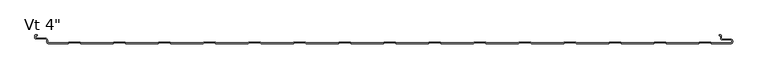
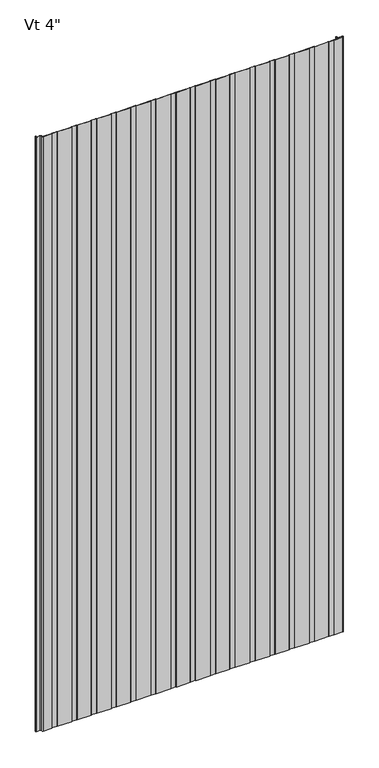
"""IFC4 building model written with IfcOpenShell, lengths in millimetres: plate geometry."""

from ifc_helpers import new_model, si_unit, frame, origin, place, context, project, spatial, polyline, circle_curve, source, transform, mapped, element, save
from ifc_brep_helpers import plane_surface, cylinder_surface, revolved_surface, advanced_brep


def plate_782f856b(model_context):
    return source(origin(), model_context, "Body", "AdvancedBrep", [
        advanced_brep(
        [(390.6883592, -101.6, 2400.0), (445.2678137, -101.6, 2400.0), (446.3403385, -100.4088405, 2400.0), (465.2384546, -100.4088405, 2400.0), (466.3109794, -101.6, 2400.0), (520.890434, -101.6, 2400.0), (521.9629588, -100.4088405, 2400.0), (540.8610749, -100.4088405, 2400.0), (541.9335958, -101.5999956, 2400.0), (574.5475652, -101.5999956, 2400.0), (577.5248337, -98.6227271, 2400.0), (577.5248337, -97.5806285, 2400.0), (574.5475652, -94.60336, 2400.0), (560.3591801, -94.60336, 2400.0), (558.7713036, -93.0154834, 2400.0), (558.7713036, -88.6950653, 2400.0), (557.1304042, -87.1065979, 2400.0), (554.7857432, -87.1065979, 2400.0), (554.7857432, -88.1060718, 2400.0), (557.1628365, -88.1060718, 2400.0), (557.7713037, -88.6950653, 2400.0), (557.7713037, -93.0154834, 2400.0), (560.3591801, -95.60336, 2400.0), (574.5475652, -95.60336, 2400.0), (576.5248337, -97.5806285, 2400.0), (576.5248337, -98.6227271, 2400.0), (574.5475652, -100.5999956, 2400.0), (542.3760351, -100.5999956, 2400.0), (541.3035142, -99.4088405, 2400.0), (521.5205195, -99.4088405, 2400.0), (520.4479947, -100.6, 2400.0), (466.7534187, -100.6, 2400.0), (465.6808939, -99.4088405, 2400.0), (445.8978992, -99.4088405, 2400.0), (444.8253744, -100.6, 2400.0), (391.1307985, -100.6, 2400.0), (390.0582736, -99.4088405, 2400.0), (370.275279, -99.4088405, 2400.0), (369.2027541, -100.6, 2400.0), (315.5081782, -100.6, 2400.0), (314.4356534, -99.4088405, 2400.0), (294.6526587, -99.4088405, 2400.0), (293.5801339, -100.6, 2400.0), (239.885558, -100.6, 2400.0), (238.8130331, -99.4088405, 2400.0), (219.0300384, -99.4088405, 2400.0), (217.9575136, -100.6, 2400.0), (164.2629377, -100.6, 2400.0), (163.1904129, -99.4088405, 2400.0), (143.4074182, -99.4088405, 2400.0), (142.3348933, -100.6, 2400.0), (88.6403174, -100.6, 2400.0), (87.5677926, -99.4088405, 2400.0), (67.7847979, -99.4088405, 2400.0), (66.7122731, -100.6, 2400.0), (13.0176972, -100.6, 2400.0), (11.9451723, -99.4088405, 2400.0), (-7.8378224, -99.4088405, 2400.0), (-8.9103472, -100.6, 2400.0), (-62.6049231, -100.6, 2400.0), (-63.6774479, -99.4088405, 2400.0), (-83.4604426, -99.4088405, 2400.0), (-84.5329675, -100.6, 2400.0), (-138.2275434, -100.6, 2400.0), (-139.3000682, -99.4088405, 2400.0), (-159.0830629, -99.4088405, 2400.0), (-160.1555877, -100.6, 2400.0), (-213.8501636, -100.6, 2400.0), (-214.9226885, -99.4088405, 2400.0), (-234.7056831, -99.4088405, 2400.0), (-235.778208, -100.6, 2400.0), (-289.4727839, -100.6, 2400.0), (-290.5453087, -99.4088405, 2400.0), (-310.3283034, -99.4088405, 2400.0), (-311.4008282, -100.6, 2400.0), (-365.0954042, -100.6, 2400.0), (-366.167929, -99.4088405, 2400.0), (-385.9509237, -99.4088405, 2400.0), (-387.0234485, -100.6, 2400.0), (-440.7180244, -100.6, 2400.0), (-441.7905493, -99.4088405, 2400.0), (-461.5735439, -99.4088405, 2400.0), (-462.6460688, -100.6, 2400.0), (-516.3406447, -100.6, 2400.0), (-517.4131695, -99.4088405, 2400.0), (-537.1961642, -99.4088405, 2400.0), (-538.268689, -100.6, 2400.0), (-570.43528, -100.6, 2400.0), (-572.4125474, -98.6227096, 2400.0), (-572.4125474, -96.3308258, 2400.0), (-576.3898159, -92.3535573, 2400.0), (-591.9862419, -92.3535573, 2400.0), (-592.5741185, -91.7656807, 2400.0), (-592.5741185, -88.694132, 2400.0), (-591.9862419, -88.1062555, 2400.0), (-589.6312064, -88.1062555, 2400.0), (-589.6312064, -87.1062555, 2400.0), (-591.9862419, -87.1062555, 2400.0), (-593.5741185, -88.694132, 2400.0), (-593.5741185, -91.7656807, 2400.0), (-591.9862419, -93.3535573, 2400.0), (-576.3898159, -93.3535573, 2400.0), (-573.4125474, -96.3308258, 2400.0), (-573.4125474, -98.6227096, 2400.0), (-570.4352807, -101.5999782, 2400.0), (-537.8262497, -101.6, 2400.0), (-536.7537249, -100.4088405, 2400.0), (-517.8556088, -100.4088405, 2400.0), (-516.783084, -101.6, 2400.0), (-462.2036295, -101.6, 2400.0), (-461.1311046, -100.4088405, 2400.0), (-442.2329886, -100.4088405, 2400.0), (-441.1604637, -101.6, 2400.0), (-386.5810092, -101.6, 2400.0), (-385.5084844, -100.4088405, 2400.0), (-366.6103683, -100.4088405, 2400.0), (-365.5378435, -101.6, 2400.0), (-310.9583889, -101.6, 2400.0), (-309.8858641, -100.4088405, 2400.0), (-290.987748, -100.4088405, 2400.0), (-289.9152232, -101.6, 2400.0), (-235.3357687, -101.6, 2400.0), (-234.2632438, -100.4088405, 2400.0), (-215.3651278, -100.4088405, 2400.0), (-214.2926029, -101.6, 2400.0), (-159.7131484, -101.6, 2400.0), (-158.6406236, -100.4088405, 2400.0), (-139.7425075, -100.4088405, 2400.0), (-138.6699827, -101.6, 2400.0), (-84.0905281, -101.6, 2400.0), (-83.0180033, -100.4088405, 2400.0), (-64.1198873, -100.4088405, 2400.0), (-63.0473624, -101.6, 2400.0), (-8.4679079, -101.6, 2400.0), (-7.395383, -100.4088405, 2400.0), (11.502733, -100.4088405, 2400.0), (12.5752578, -101.6, 2400.0), (67.1547124, -101.6, 2400.0), (68.2272372, -100.4088405, 2400.0), (87.1253533, -100.4088405, 2400.0), (88.1978781, -101.6, 2400.0), (142.7773327, -101.6, 2400.0), (143.8498575, -100.4088405, 2400.0), (162.7479735, -100.4088405, 2400.0), (163.8204984, -101.6, 2400.0), (218.3999529, -101.6, 2400.0), (219.4724778, -100.4088405, 2400.0), (238.3705938, -100.4088405, 2400.0), (239.4431186, -101.6, 2400.0), (294.0225732, -101.6, 2400.0), (295.095098, -100.4088405, 2400.0), (313.9932141, -100.4088405, 2400.0), (315.0657389, -101.6, 2400.0), (369.6451934, -101.6, 2400.0), (370.7177183, -100.4088405, 2400.0), (389.6158343, -100.4088405, 2400.0), (390.6883592, -101.6, 0.0), (389.6158343, -100.4088405, 0.0), (370.7177183, -100.4088405, 0.0), (369.6451934, -101.6, 0.0), (315.0657389, -101.6, 0.0), (313.9932141, -100.4088405, 0.0), (295.095098, -100.4088405, 0.0), (294.0225732, -101.6, 0.0), (239.4431186, -101.6, 0.0), (238.3705938, -100.4088405, 0.0), (219.4724778, -100.4088405, 0.0), (218.3999529, -101.6, 0.0), (163.8204984, -101.6, 0.0), (162.7479735, -100.4088405, 0.0), (143.8498575, -100.4088405, 0.0), (142.7773327, -101.6, 0.0), (88.1978781, -101.6, 0.0), (87.1253533, -100.4088405, 0.0), (68.2272372, -100.4088405, 0.0), (67.1547124, -101.6, 0.0), (12.5752578, -101.6, 0.0), (11.502733, -100.4088405, 0.0), (-7.395383, -100.4088405, 0.0), (-8.4679079, -101.6, 0.0), (-63.0473624, -101.6, 0.0), (-64.1198873, -100.4088405, 0.0), (-83.0180033, -100.4088405, 0.0), (-84.0905281, -101.6, 0.0), (-138.6699827, -101.6, 0.0), (-139.7425075, -100.4088405, 0.0), (-158.6406236, -100.4088405, 0.0), (-159.7131484, -101.6, 0.0), (-214.2926029, -101.6, 0.0), (-215.3651278, -100.4088405, 0.0), (-234.2632438, -100.4088405, 0.0), (-235.3357687, -101.6, 0.0), (-289.9152232, -101.6, 0.0), (-290.987748, -100.4088405, 0.0), (-309.8858641, -100.4088405, 0.0), (-310.9583889, -101.6, 0.0), (-365.5378435, -101.6, 0.0), (-366.6103683, -100.4088405, 0.0), (-385.5084844, -100.4088405, 0.0), (-386.5810092, -101.6, 0.0), (-441.1604637, -101.6, 0.0), (-442.2329886, -100.4088405, 0.0), (-461.1311046, -100.4088405, 0.0), (-462.2036295, -101.6, 0.0), (-516.783084, -101.6, 0.0), (-517.8556088, -100.4088405, 0.0), (-536.7537249, -100.4088405, 0.0), (-537.8262497, -101.6, 0.0), (-570.4352807, -101.6, 0.0), (-573.4125474, -98.6227096, 0.0), (-573.4125474, -96.3308258, 0.0), (-576.3898159, -93.3535573, 0.0), (-591.9862419, -93.3535573, 0.0), (-593.5741185, -91.7656807, 0.0), (-593.5741185, -88.694132, 0.0), (-591.9862419, -87.1062555, 0.0), (-589.6312064, -87.1062555, 0.0), (-589.6312064, -88.1062555, 0.0), (-591.9862419, -88.1062555, 0.0), (-592.5741185, -88.694132, 0.0), (-592.5741185, -91.7656807, 0.0), (-591.9862419, -92.3535573, 0.0), (-576.3898159, -92.3535573, 0.0), (-572.4125474, -96.3308258, 0.0), (-572.4125474, -98.6227096, 0.0), (-570.43528, -100.5999782, 0.0), (-538.268689, -100.6, 0.0), (-537.1961642, -99.4088405, 0.0), (-517.4131695, -99.4088405, 0.0), (-516.3406447, -100.6, 0.0), (-462.6460688, -100.6, 0.0), (-461.5735439, -99.4088405, 0.0), (-441.7905493, -99.4088405, 0.0), (-440.7180244, -100.6, 0.0), (-387.0234485, -100.6, 0.0), (-385.9509237, -99.4088405, 0.0), (-366.167929, -99.4088405, 0.0), (-365.0954042, -100.6, 0.0), (-311.4008282, -100.6, 0.0), (-310.3283034, -99.4088405, 0.0), (-290.5453087, -99.4088405, 0.0), (-289.4727839, -100.6, 0.0), (-235.778208, -100.6, 0.0), (-234.7056831, -99.4088405, 0.0), (-214.9226885, -99.4088405, 0.0), (-213.8501636, -100.6, 0.0), (-160.1555877, -100.6, 0.0), (-159.0830629, -99.4088405, 0.0), (-139.3000682, -99.4088405, 0.0), (-138.2275434, -100.6, 0.0), (-84.5329675, -100.6, 0.0), (-83.4604426, -99.4088405, 0.0), (-63.6774479, -99.4088405, 0.0), (-62.6049231, -100.6, 0.0), (-8.9103472, -100.6, 0.0), (-7.8378224, -99.4088405, 0.0), (11.9451723, -99.4088405, 0.0), (13.0176972, -100.6, 0.0), (66.7122731, -100.6, 0.0), (67.7847979, -99.4088405, 0.0), (87.5677926, -99.4088405, 0.0), (88.6403174, -100.6, 0.0), (142.3348933, -100.6, 0.0), (143.4074182, -99.4088405, 0.0), (163.1904129, -99.4088405, 0.0), (164.2629377, -100.6, 0.0), (217.9575136, -100.6, 0.0), (219.0300384, -99.4088405, 0.0), (238.8130331, -99.4088405, 0.0), (239.885558, -100.6, 0.0), (293.5801339, -100.6, 0.0), (294.6526587, -99.4088405, 0.0), (314.4356534, -99.4088405, 0.0), (315.5081782, -100.6, 0.0), (369.2027541, -100.6, 0.0), (370.275279, -99.4088405, 0.0), (390.0582736, -99.4088405, 0.0), (391.1307985, -100.6, 0.0), (444.8253744, -100.6, 0.0), (445.8978992, -99.4088405, 0.0), (465.6808939, -99.4088405, 0.0), (466.7534187, -100.6, 0.0), (520.4479947, -100.6, 0.0), (521.5205195, -99.4088405, 0.0), (541.3035142, -99.4088405, 0.0), (542.3760351, -100.5999956, 0.0), (574.5475652, -100.5999956, 0.0), (576.5248337, -98.6227271, 0.0), (576.5248337, -97.5806285, 0.0), (574.5475652, -95.60336, 0.0), (560.3591801, -95.60336, 0.0), (557.7713036, -93.0154834, 0.0), (557.7713037, -88.6950653, 0.0), (557.1628365, -88.1060718, 0.0), (554.7857432, -88.1060718, 0.0), (554.7857432, -87.1065979, 0.0), (557.1304042, -87.1065979, 0.0), (558.7713037, -88.6950653, 0.0), (558.7713036, -93.0154834, 0.0), (560.3591801, -94.60336, 0.0), (574.5475652, -94.60336, 0.0), (577.5248337, -97.5806285, 0.0), (577.5248337, -98.6227271, 0.0), (574.5475652, -101.5999956, 0.0), (541.9335958, -101.5999956, 0.0), (540.8610749, -100.4088405, 0.0), (521.9629588, -100.4088405, 0.0), (520.890434, -101.6, 0.0), (466.3109794, -101.6, 0.0), (465.2384546, -100.4088405, 0.0), (446.3403385, -100.4088405, 0.0), (445.2678137, -101.6, 0.0)],
        [
            (0, 1),
            (1, 2),
            (2, 3),
            (3, 4),
            (4, 5),
            (5, 6),
            (6, 7),
            (7, 8),
            (8, 9),
            (9, 10, circle_curve(frame((574.5475652, -98.6227271, 2400.0), z_axis=(0.0, 0.0, 1.0), x_axis=(-1.0, 0.0, 0.0)), 2.9772685)),
            (10, 11),
            (11, 12, circle_curve(frame((574.5475652, -97.5806285, 2400.0), z_axis=(0.0, 0.0, 1.0), x_axis=(-1.0, 0.0, 0.0)), 2.9772685)),
            (12, 13),
            (13, 14, circle_curve(frame((560.3591801, -93.0154834, 2400.0), z_axis=(0.0, 0.0, -1.0), x_axis=(-1.0, 0.0, 0.0)), 1.5878765)),
            (14, 15),
            (15, 16, circle_curve(frame((557.1819985, -88.6950653, 2400.0), z_axis=(0.0, 0.0, 1.0), x_axis=(-1.0, 0.0, 0.0)), 1.5893052)),
            (16, 17),
            (17, 18),
            (18, 19),
            (19, 20, circle_curve(frame((557.1819985, -88.6950653, 2400.0), z_axis=(0.0, 0.0, -1.0), x_axis=(-1.0, 0.0, 0.0)), 0.5893052)),
            (20, 21),
            (21, 22, circle_curve(frame((560.3591801, -93.0154834, 2400.0), z_axis=(0.0, 0.0, 1.0), x_axis=(-1.0, 0.0, 0.0)), 2.5878765)),
            (22, 23),
            (23, 24, circle_curve(frame((574.5475652, -97.5806285, 2400.0), z_axis=(0.0, 0.0, -1.0), x_axis=(-1.0, 0.0, 0.0)), 1.9772685)),
            (24, 25),
            (25, 26, circle_curve(frame((574.5475652, -98.6227271, 2400.0), z_axis=(0.0, 0.0, -1.0), x_axis=(-1.0, 0.0, 0.0)), 1.9772685)),
            (26, 27),
            (27, 28),
            (28, 29),
            (29, 30),
            (30, 31),
            (31, 32),
            (32, 33),
            (33, 34),
            (34, 35),
            (35, 36),
            (36, 37),
            (37, 38),
            (38, 39),
            (39, 40),
            (40, 41),
            (41, 42),
            (42, 43),
            (43, 44),
            (44, 45),
            (45, 46),
            (46, 47),
            (47, 48),
            (48, 49),
            (49, 50),
            (50, 51),
            (51, 52),
            (52, 53),
            (53, 54),
            (54, 55),
            (55, 56),
            (56, 57),
            (57, 58),
            (58, 59),
            (59, 60),
            (60, 61),
            (61, 62),
            (62, 63),
            (63, 64),
            (64, 65),
            (65, 66),
            (66, 67),
            (67, 68),
            (68, 69),
            (69, 70),
            (70, 71),
            (71, 72),
            (72, 73),
            (73, 74),
            (74, 75),
            (75, 76),
            (76, 77),
            (77, 78),
            (78, 79),
            (79, 80),
            (80, 81),
            (81, 82),
            (82, 83),
            (83, 84),
            (84, 85),
            (85, 86),
            (86, 87),
            (87, 88, circle_curve(frame((-570.4352788, -98.6227096, 2400.0), z_axis=(0.0, 0.0, -1.0), x_axis=(-1.0, 0.0, 0.0)), 1.9772685)),
            (88, 89),
            (89, 90, circle_curve(frame((-576.3898159, -96.3308258, 2400.0), z_axis=(0.0, 0.0, 1.0), x_axis=(-1.0, 0.0, 0.0)), 3.9772685)),
            (90, 91),
            (91, 92, circle_curve(frame((-591.9862419, -91.7656807, 2400.0), z_axis=(0.0, 0.0, -1.0), x_axis=(-1.0, 0.0, 0.0)), 0.5878765)),
            (92, 93),
            (93, 94, circle_curve(frame((-591.9862419, -88.694132, 2400.0), z_axis=(0.0, 0.0, -1.0), x_axis=(-1.0, 0.0, 0.0)), 0.5878765)),
            (94, 95),
            (95, 96),
            (96, 97),
            (97, 98, circle_curve(frame((-591.9862419, -88.694132, 2400.0), z_axis=(0.0, 0.0, 1.0), x_axis=(-1.0, 0.0, 0.0)), 1.5878765)),
            (98, 99),
            (99, 100, circle_curve(frame((-591.9862419, -91.7656807, 2400.0), z_axis=(0.0, 0.0, 1.0), x_axis=(-1.0, 0.0, 0.0)), 1.5878765)),
            (100, 101),
            (101, 102, circle_curve(frame((-576.3898159, -96.3308258, 2400.0), z_axis=(0.0, 0.0, -1.0), x_axis=(-1.0, 0.0, 0.0)), 2.9772685)),
            (102, 103),
            (103, 104, circle_curve(frame((-570.4352789, -98.6227096, 2400.0), z_axis=(0.0, 0.0, 1.0), x_axis=(-1.0, 0.0, 0.0)), 2.9772685)),
            (104, 105),
            (105, 106),
            (106, 107),
            (107, 108),
            (108, 109),
            (109, 110),
            (110, 111),
            (111, 112),
            (112, 113),
            (113, 114),
            (114, 115),
            (115, 116),
            (116, 117),
            (117, 118),
            (118, 119),
            (119, 120),
            (120, 121),
            (121, 122),
            (122, 123),
            (123, 124),
            (124, 125),
            (125, 126),
            (126, 127),
            (127, 128),
            (128, 129),
            (129, 130),
            (130, 131),
            (131, 132),
            (132, 133),
            (133, 134),
            (134, 135),
            (135, 136),
            (136, 137),
            (137, 138),
            (138, 139),
            (139, 140),
            (140, 141),
            (141, 142),
            (142, 143),
            (143, 144),
            (144, 145),
            (145, 146),
            (146, 147),
            (147, 148),
            (148, 149),
            (149, 150),
            (150, 151),
            (151, 152),
            (152, 153),
            (153, 154),
            (154, 155),
            (155, 0),
            (156, 157),
            (157, 158),
            (158, 159),
            (159, 160),
            (160, 161),
            (161, 162),
            (162, 163),
            (163, 164),
            (164, 165),
            (165, 166),
            (166, 167),
            (167, 168),
            (168, 169),
            (169, 170),
            (170, 171),
            (171, 172),
            (172, 173),
            (173, 174),
            (174, 175),
            (175, 176),
            (176, 177),
            (177, 178),
            (178, 179),
            (179, 180),
            (180, 181),
            (181, 182),
            (182, 183),
            (183, 184),
            (184, 185),
            (185, 186),
            (186, 187),
            (187, 188),
            (188, 189),
            (189, 190),
            (190, 191),
            (191, 192),
            (192, 193),
            (193, 194),
            (194, 195),
            (195, 196),
            (196, 197),
            (197, 198),
            (198, 199),
            (199, 200),
            (200, 201),
            (201, 202),
            (202, 203),
            (203, 204),
            (204, 205),
            (205, 206),
            (206, 207),
            (207, 208),
            (208, 209, circle_curve(frame((-570.4352789, -98.6227096, 0.0), z_axis=(0.0, 0.0, -1.0), x_axis=(-1.0, 0.0, 0.0)), 2.9772685)),
            (209, 210),
            (210, 211, circle_curve(frame((-576.3898159, -96.3308258, 0.0), z_axis=(0.0, 0.0, 1.0), x_axis=(-1.0, 0.0, 0.0)), 2.9772685)),
            (211, 212),
            (212, 213, circle_curve(frame((-591.9862419, -91.7656807, 0.0), z_axis=(0.0, 0.0, -1.0), x_axis=(-1.0, 0.0, 0.0)), 1.5878765)),
            (213, 214),
            (214, 215, circle_curve(frame((-591.9862419, -88.694132, 0.0), z_axis=(0.0, 0.0, -1.0), x_axis=(-1.0, 0.0, 0.0)), 1.5878765)),
            (215, 216),
            (216, 217),
            (217, 218),
            (218, 219, circle_curve(frame((-591.9862419, -88.694132, 0.0), z_axis=(0.0, 0.0, 1.0), x_axis=(-1.0, 0.0, 0.0)), 0.5878765)),
            (219, 220),
            (220, 221, circle_curve(frame((-591.9862419, -91.7656807, 0.0), z_axis=(0.0, 0.0, 1.0), x_axis=(-1.0, 0.0, 0.0)), 0.5878765)),
            (221, 222),
            (222, 223, circle_curve(frame((-576.3898159, -96.3308258, 0.0), z_axis=(0.0, 0.0, -1.0), x_axis=(-1.0, 0.0, 0.0)), 3.9772685)),
            (223, 224),
            (224, 225, circle_curve(frame((-570.4352788, -98.6227096, 0.0), z_axis=(0.0, 0.0, 1.0), x_axis=(-1.0, 0.0, 0.0)), 1.9772685)),
            (225, 226),
            (226, 227),
            (227, 228),
            (228, 229),
            (229, 230),
            (230, 231),
            (231, 232),
            (232, 233),
            (233, 234),
            (234, 235),
            (235, 236),
            (236, 237),
            (237, 238),
            (238, 239),
            (239, 240),
            (240, 241),
            (241, 242),
            (242, 243),
            (243, 244),
            (244, 245),
            (245, 246),
            (246, 247),
            (247, 248),
            (248, 249),
            (249, 250),
            (250, 251),
            (251, 252),
            (252, 253),
            (253, 254),
            (254, 255),
            (255, 256),
            (256, 257),
            (257, 258),
            (258, 259),
            (259, 260),
            (260, 261),
            (261, 262),
            (262, 263),
            (263, 264),
            (264, 265),
            (265, 266),
            (266, 267),
            (267, 268),
            (268, 269),
            (269, 270),
            (270, 271),
            (271, 272),
            (272, 273),
            (273, 274),
            (274, 275),
            (275, 276),
            (276, 277),
            (277, 278),
            (278, 279),
            (279, 280),
            (280, 281),
            (281, 282),
            (282, 283),
            (283, 284),
            (284, 285),
            (285, 286),
            (286, 287, circle_curve(frame((574.5475652, -98.6227271, 0.0), z_axis=(0.0, 0.0, 1.0), x_axis=(-1.0, 0.0, 0.0)), 1.9772685)),
            (287, 288),
            (288, 289, circle_curve(frame((574.5475652, -97.5806285, 0.0), z_axis=(0.0, 0.0, 1.0), x_axis=(-1.0, 0.0, 0.0)), 1.9772685)),
            (289, 290),
            (290, 291, circle_curve(frame((560.3591801, -93.0154834, 0.0), z_axis=(0.0, 0.0, -1.0), x_axis=(-1.0, 0.0, 0.0)), 2.5878765)),
            (291, 292),
            (292, 293, circle_curve(frame((557.1819985, -88.6950653, 0.0), z_axis=(0.0, 0.0, 1.0), x_axis=(-1.0, 0.0, 0.0)), 0.5893052)),
            (293, 294),
            (294, 295),
            (295, 296),
            (296, 297, circle_curve(frame((557.1819985, -88.6950653, 0.0), z_axis=(0.0, 0.0, -1.0), x_axis=(-1.0, 0.0, 0.0)), 1.5893052)),
            (297, 298),
            (298, 299, circle_curve(frame((560.3591801, -93.0154834, 0.0), z_axis=(0.0, 0.0, 1.0), x_axis=(-1.0, 0.0, 0.0)), 1.5878765)),
            (299, 300),
            (300, 301, circle_curve(frame((574.5475652, -97.5806285, 0.0), z_axis=(0.0, 0.0, -1.0), x_axis=(-1.0, 0.0, 0.0)), 2.9772685)),
            (301, 302),
            (302, 303, circle_curve(frame((574.5475652, -98.6227271, 0.0), z_axis=(0.0, 0.0, -1.0), x_axis=(-1.0, 0.0, 0.0)), 2.9772685)),
            (303, 304),
            (304, 305),
            (305, 306),
            (306, 307),
            (307, 308),
            (308, 309),
            (309, 310),
            (310, 311),
            (311, 156),
            (0, 156),
            (311, 1),
            (34, 278),
            (277, 35),
            (64, 248),
            (247, 65),
            (124, 188),
            (187, 125),
            (66, 246),
            (245, 67),
            (123, 189),
            (244, 68),
            (121, 191),
            (190, 122),
            (69, 243),
            (242, 70),
            (120, 192),
            (241, 71),
            (119, 193),
            (240, 72),
            (137, 175),
            (174, 138),
            (53, 259),
            (258, 54),
            (173, 139),
            (52, 260),
            (136, 176),
            (257, 55),
            (135, 177),
            (256, 56),
            (133, 179),
            (178, 134),
            (57, 255),
            (254, 58),
            (132, 180),
            (253, 59),
            (131, 181),
            (252, 60),
            (129, 183),
            (182, 130),
            (61, 251),
            (250, 62),
            (128, 184),
            (249, 63),
            (127, 185),
            (186, 126),
            (24, 288),
            (287, 25),
            (10, 302),
            (301, 11),
            (286, 26),
            (103, 209),
            (208, 104),
            (207, 105),
            (91, 221),
            (220, 92),
            (4, 308),
            (307, 5),
            (30, 282),
            (281, 31),
            (7, 305),
            (304, 8),
            (27, 285),
            (284, 28),
            (306, 6),
            (29, 283),
            (23, 289),
            (22, 290),
            (21, 291),
            (20, 292),
            (19, 293),
            (18, 294),
            (17, 295),
            (16, 296),
            (15, 297),
            (14, 298),
            (13, 299),
            (12, 300),
            (9, 303),
            (101, 211),
            (210, 102),
            (99, 213),
            (212, 100),
            (97, 215),
            (214, 98),
            (95, 217),
            (216, 96),
            (93, 219),
            (218, 94),
            (90, 222),
            (88, 224),
            (223, 89),
            (86, 226),
            (225, 87),
            (106, 206),
            (205, 107),
            (85, 227),
            (84, 228),
            (204, 108),
            (203, 109),
            (82, 230),
            (229, 83),
            (110, 202),
            (201, 111),
            (81, 231),
            (80, 232),
            (200, 112),
            (199, 113),
            (78, 234),
            (233, 79),
            (114, 198),
            (197, 115),
            (77, 235),
            (76, 236),
            (196, 116),
            (195, 117),
            (74, 238),
            (237, 75),
            (118, 194),
            (73, 239),
            (172, 140),
            (171, 141),
            (50, 262),
            (261, 51),
            (142, 170),
            (169, 143),
            (49, 263),
            (48, 264),
            (168, 144),
            (167, 145),
            (46, 266),
            (265, 47),
            (146, 166),
            (165, 147),
            (45, 267),
            (44, 268),
            (164, 148),
            (163, 149),
            (42, 270),
            (269, 43),
            (150, 162),
            (161, 151),
            (41, 271),
            (40, 272),
            (160, 152),
            (159, 153),
            (38, 274),
            (273, 39),
            (154, 158),
            (157, 155),
            (37, 275),
            (36, 276),
            (2, 310),
            (309, 3),
            (32, 280),
            (279, 33),
        ],
        [
            plane_surface(frame((0.0, -101.6, 2400.0), z_axis=(0.0, 0.0, 1.0), x_axis=(0.0, -1.0, 0.0))),
            plane_surface(frame((0.0, -101.6, 0.0), z_axis=(0.0, 0.0, -1.0), x_axis=(0.0, -1.0, 0.0))),
            plane_surface(frame((445.2678137, -101.6, 2400.0), z_axis=(0.0, -1.0, 0.0), x_axis=(0.0, 0.0, -1.0))),
            plane_surface(frame((391.1307985, -100.6, 2400.0), z_axis=(0.0, 1.0, 0.0), x_axis=(0.0, 0.0, -1.0))),
            plane_surface(frame((-159.0830629, -99.4088405, 2400.0), z_axis=(0.0, 1.0, 0.0), x_axis=(0.0, 0.0, -1.0))),
            plane_surface(frame((-159.7131484, -101.6, 2400.0), z_axis=(0.0, -1.0, 0.0), x_axis=(0.0, 0.0, -1.0))),
            plane_surface(frame((-213.8501636, -100.6, 2400.0), z_axis=(0.0, 1.0, 0.0), x_axis=(0.0, 0.0, -1.0))),
            plane_surface(frame((-214.2926029, -101.6, 2400.0), z_axis=(-0.7431448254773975, -0.6691306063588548, 0.0), x_axis=(0.0, 0.0, -1.0))),
            plane_surface(frame((-214.9226885, -99.4088405, 2400.0), z_axis=(0.7431448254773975, 0.6691306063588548, 0.0), x_axis=(0.0, 0.0, -1.0))),
            plane_surface(frame((-234.2632438, -100.4088405, 2400.0), z_axis=(0.7431448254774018, -0.66913060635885, 0.0), x_axis=(0.0, 0.0, -1.0))),
            plane_surface(frame((-235.778208, -100.6, 2400.0), z_axis=(-0.7431448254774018, 0.66913060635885, 0.0), x_axis=(0.0, 0.0, -1.0))),
            plane_surface(frame((-215.3651278, -100.4088405, 2400.0), z_axis=(0.0, -1.0, 0.0), x_axis=(0.0, 0.0, -1.0))),
            plane_surface(frame((-234.7056831, -99.4088405, 2400.0), z_axis=(0.0, 1.0, 0.0), x_axis=(0.0, 0.0, -1.0))),
            plane_surface(frame((-235.3357687, -101.6, 2400.0), z_axis=(0.0, -1.0, 0.0), x_axis=(0.0, 0.0, -1.0))),
            plane_surface(frame((-289.4727839, -100.6, 2400.0), z_axis=(0.0, 1.0, 0.0), x_axis=(0.0, 0.0, -1.0))),
            plane_surface(frame((-289.9152232, -101.6, 2400.0), z_axis=(-0.7431448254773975, -0.6691306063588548, 0.0), x_axis=(0.0, 0.0, -1.0))),
            plane_surface(frame((-290.5453087, -99.4088405, 2400.0), z_axis=(0.7431448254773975, 0.6691306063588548, 0.0), x_axis=(0.0, 0.0, -1.0))),
            plane_surface(frame((68.2272372, -100.4088405, 2400.0), z_axis=(0.7431448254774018, -0.66913060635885, 0.0), x_axis=(0.0, 0.0, -1.0))),
            plane_surface(frame((66.7122731, -100.6, 2400.0), z_axis=(-0.7431448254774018, 0.66913060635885, 0.0), x_axis=(0.0, 0.0, -1.0))),
            plane_surface(frame((87.1253533, -100.4088405, 2400.0), z_axis=(0.0, -1.0, 0.0), x_axis=(0.0, 0.0, -1.0))),
            plane_surface(frame((67.7847979, -99.4088405, 2400.0), z_axis=(0.0, 1.0, 0.0), x_axis=(0.0, 0.0, -1.0))),
            plane_surface(frame((67.1547124, -101.6, 2400.0), z_axis=(0.0, -1.0, 0.0), x_axis=(0.0, 0.0, -1.0))),
            plane_surface(frame((13.0176972, -100.6, 2400.0), z_axis=(0.0, 1.0, 0.0), x_axis=(0.0, 0.0, -1.0))),
            plane_surface(frame((12.5752578, -101.6, 2400.0), z_axis=(-0.7431448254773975, -0.6691306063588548, 0.0), x_axis=(0.0, 0.0, -1.0))),
            plane_surface(frame((11.9451723, -99.4088405, 2400.0), z_axis=(0.7431448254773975, 0.6691306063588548, 0.0), x_axis=(0.0, 0.0, -1.0))),
            plane_surface(frame((-7.395383, -100.4088405, 2400.0), z_axis=(0.7431448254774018, -0.66913060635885, 0.0), x_axis=(0.0, 0.0, -1.0))),
            plane_surface(frame((-8.9103472, -100.6, 2400.0), z_axis=(-0.7431448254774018, 0.66913060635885, 0.0), x_axis=(0.0, 0.0, -1.0))),
            plane_surface(frame((11.502733, -100.4088405, 2400.0), z_axis=(0.0, -1.0, 0.0), x_axis=(0.0, 0.0, -1.0))),
            plane_surface(frame((-7.8378224, -99.4088405, 2400.0), z_axis=(0.0, 1.0, 0.0), x_axis=(0.0, 0.0, -1.0))),
            plane_surface(frame((-8.4679079, -101.6, 2400.0), z_axis=(0.0, -1.0, 0.0), x_axis=(0.0, 0.0, -1.0))),
            plane_surface(frame((-62.6049231, -100.6, 2400.0), z_axis=(0.0, 1.0, 0.0), x_axis=(0.0, 0.0, -1.0))),
            plane_surface(frame((-63.0473624, -101.6, 2400.0), z_axis=(-0.7431448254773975, -0.6691306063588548, 0.0), x_axis=(0.0, 0.0, -1.0))),
            plane_surface(frame((-63.6774479, -99.4088405, 2400.0), z_axis=(0.7431448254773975, 0.6691306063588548, 0.0), x_axis=(0.0, 0.0, -1.0))),
            plane_surface(frame((-83.0180033, -100.4088405, 2400.0), z_axis=(0.7431448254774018, -0.66913060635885, 0.0), x_axis=(0.0, 0.0, -1.0))),
            plane_surface(frame((-84.5329675, -100.6, 2400.0), z_axis=(-0.7431448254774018, 0.66913060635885, 0.0), x_axis=(0.0, 0.0, -1.0))),
            plane_surface(frame((-64.1198873, -100.4088405, 2400.0), z_axis=(0.0, -1.0, 0.0), x_axis=(0.0, 0.0, -1.0))),
            plane_surface(frame((-83.4604426, -99.4088405, 2400.0), z_axis=(0.0, 1.0, 0.0), x_axis=(0.0, 0.0, -1.0))),
            plane_surface(frame((-84.0905281, -101.6, 2400.0), z_axis=(0.0, -1.0, 0.0), x_axis=(0.0, 0.0, -1.0))),
            plane_surface(frame((-138.2275434, -100.6, 2400.0), z_axis=(0.0, 1.0, 0.0), x_axis=(0.0, 0.0, -1.0))),
            plane_surface(frame((-138.6699827, -101.6, 2400.0), z_axis=(-0.7431448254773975, -0.6691306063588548, 0.0), x_axis=(0.0, 0.0, -1.0))),
            plane_surface(frame((-139.3000682, -99.4088405, 2400.0), z_axis=(0.7431448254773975, 0.6691306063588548, 0.0), x_axis=(0.0, 0.0, -1.0))),
            plane_surface(frame((-158.6406236, -100.4088405, 2400.0), z_axis=(0.7431448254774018, -0.66913060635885, 0.0), x_axis=(0.0, 0.0, -1.0))),
            plane_surface(frame((-160.1555877, -100.6, 2400.0), z_axis=(-0.7431448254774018, 0.66913060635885, 0.0), x_axis=(0.0, 0.0, -1.0))),
            plane_surface(frame((-139.7425075, -100.4088405, 2400.0), z_axis=(0.0, -1.0, 0.0), x_axis=(0.0, 0.0, -1.0))),
            plane_surface(frame((576.5248337, -98.6227271, 2400.0), z_axis=(-1.0, 0.0, 0.0), x_axis=(0.0, 0.0, -1.0))),
            plane_surface(frame((577.5248337, -97.5806285, 2400.0), z_axis=(1.0, 0.0, 0.0), x_axis=(0.0, 0.0, -1.0))),
            revolved_surface(polyline([(572.5702967, -98.6227271, 0.0), (572.5702967, -98.6227271, 2400.0)]), (574.5475652, -98.6227271, 2400.0), (0.0, 0.0, -1.0)),
            cylinder_surface(frame((-570.4352789, -98.6227096, 2400.0), z_axis=(0.0, 0.0, 1.0), x_axis=(-1.0, 0.0, 0.0)), 2.9772685),
            plane_surface(frame((-537.8262497, -101.6, 2400.0), z_axis=(0.0, -1.0, 0.0), x_axis=(0.0, 0.0, -1.0))),
            revolved_surface(polyline([(-592.5741184, -91.7656807, 0.0), (-592.5741184, -91.7656807, 2400.0)]), (-591.9862419, -91.7656807, 2400.0), (0.0, 0.0, -1.0)),
            plane_surface(frame((520.890434, -101.6, 2400.0), z_axis=(0.0, -1.0, 0.0), x_axis=(0.0, 0.0, -1.0))),
            plane_surface(frame((466.7534187, -100.6, 2400.0), z_axis=(0.0, 1.0, 0.0), x_axis=(0.0, 0.0, -1.0))),
            plane_surface(frame((541.9335958, -101.5999956, 2400.0), z_axis=(-0.7431448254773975, -0.6691306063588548, 0.0), x_axis=(0.0, 0.0, -1.0))),
            plane_surface(frame((541.3035142, -99.4088405, 2400.0), z_axis=(0.7431448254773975, 0.6691306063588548, 0.0), x_axis=(0.0, 0.0, -1.0))),
            plane_surface(frame((521.9629588, -100.4088405, 2400.0), z_axis=(0.7431448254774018, -0.66913060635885, 0.0), x_axis=(0.0, 0.0, -1.0))),
            plane_surface(frame((520.4479947, -100.6, 2400.0), z_axis=(-0.7431448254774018, 0.66913060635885, 0.0), x_axis=(0.0, 0.0, -1.0))),
            plane_surface(frame((540.8610749, -100.4088405, 2400.0), z_axis=(0.0, -1.0, 0.0), x_axis=(0.0, 0.0, -1.0))),
            plane_surface(frame((521.5205195, -99.4088405, 2400.0), z_axis=(0.0, 1.0, 0.0), x_axis=(0.0, 0.0, -1.0))),
            plane_surface(frame((542.3760351, -100.5999956, 2400.0), z_axis=(0.0, 1.0, 0.0), x_axis=(0.0, 0.0, -1.0))),
            revolved_surface(polyline([(572.5702967, -97.5806285, 0.0), (572.5702967, -97.5806285, 2400.0)]), (574.5475652, -97.5806285, 2400.0), (0.0, 0.0, -1.0)),
            plane_surface(frame((574.5475652, -95.60336, 2400.0), z_axis=(0.0, -1.0, 0.0), x_axis=(0.0, 0.0, -1.0))),
            cylinder_surface(frame((560.3591801, -93.0154834, 2400.0), z_axis=(0.0, 0.0, 1.0), x_axis=(-1.0, 0.0, 0.0)), 2.5878765),
            plane_surface(frame((557.7713037, -93.0154834, 2400.0), z_axis=(-1.0, 0.0, 0.0), x_axis=(0.0, 0.0, -1.0))),
            revolved_surface(polyline([(556.5926933, -88.6950653, 0.0), (556.5926933, -88.6950653, 2400.0)]), (557.1819985, -88.6950653, 2400.0), (0.0, 0.0, -1.0)),
            plane_surface(frame((557.1628365, -88.1060718, 2400.0), z_axis=(0.0, -1.0, 0.0), x_axis=(0.0, 0.0, -1.0))),
            plane_surface(frame((554.7857432, -88.1060718, 2400.0), z_axis=(-1.0, 0.0, 0.0), x_axis=(0.0, 0.0, -1.0))),
            plane_surface(frame((554.7857432, -87.1065979, 2400.0), z_axis=(0.0, 1.0, 0.0), x_axis=(0.0, 0.0, -1.0))),
            cylinder_surface(frame((557.1819985, -88.6950653, 2400.0), z_axis=(0.0, 0.0, 1.0), x_axis=(-1.0, 0.0, 0.0)), 1.5893052),
            plane_surface(frame((558.7713036, -88.6950653, 2400.0), z_axis=(1.0, 0.0, 0.0), x_axis=(0.0, 0.0, -1.0))),
            revolved_surface(polyline([(558.7713036, -93.0154834, 0.0), (558.7713036, -93.0154834, 2400.0)]), (560.3591801, -93.0154834, 2400.0), (0.0, 0.0, -1.0)),
            plane_surface(frame((560.3591801, -94.60336, 2400.0), z_axis=(0.0, 1.0, 0.0), x_axis=(0.0, 0.0, -1.0))),
            cylinder_surface(frame((574.5475652, -97.5806285, 2400.0), z_axis=(0.0, 0.0, 1.0), x_axis=(-1.0, 0.0, 0.0)), 2.9772685),
            cylinder_surface(frame((574.5475652, -98.6227271, 2400.0), z_axis=(0.0, 0.0, 1.0), x_axis=(-1.0, 0.0, 0.0)), 2.9772685),
            plane_surface(frame((574.5475652, -101.5999956, 2400.0), z_axis=(0.0, -1.0, 0.0), x_axis=(0.0, 0.0, -1.0))),
            revolved_surface(polyline([(-579.3670844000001, -96.3308258, 0.0), (-579.3670844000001, -96.3308258, 2400.0)]), (-576.3898159, -96.3308258, 2400.0), (0.0, 0.0, -1.0)),
            cylinder_surface(frame((-591.9862419, -91.7656807, 2400.0), z_axis=(0.0, 0.0, 1.0), x_axis=(-1.0, 0.0, 0.0)), 1.5878765),
            plane_surface(frame((-576.3898159, -93.3535573, 2400.0), z_axis=(0.0, -1.0, 0.0), x_axis=(0.0, 0.0, -1.0))),
            plane_surface(frame((-573.4125474, -98.6227096, 2400.0), z_axis=(-1.0, 0.0, 0.0), x_axis=(0.0, 0.0, -1.0))),
            cylinder_surface(frame((-591.9862419, -88.694132, 2400.0), z_axis=(0.0, 0.0, 1.0), x_axis=(-1.0, 0.0, 0.0)), 1.5878765),
            plane_surface(frame((-589.6312064, -87.1062555, 2400.0), z_axis=(1.0, 0.0, 0.0), x_axis=(0.0, 0.0, -1.0))),
            plane_surface(frame((-591.9862419, -87.1062555, 2400.0), z_axis=(0.0, 1.0, 0.0), x_axis=(0.0, 0.0, -1.0))),
            plane_surface(frame((-593.5741185, -91.7656807, 2400.0), z_axis=(-1.0, 0.0, 0.0), x_axis=(0.0, 0.0, -1.0))),
            revolved_surface(polyline([(-592.5741184, -88.694132, 0.0), (-592.5741184, -88.694132, 2400.0)]), (-591.9862419, -88.694132, 2400.0), (0.0, 0.0, -1.0)),
            plane_surface(frame((-591.9862419, -92.3535573, 2400.0), z_axis=(0.0, 1.0, 0.0), x_axis=(0.0, 0.0, -1.0))),
            plane_surface(frame((-592.5741185, -88.694132, 2400.0), z_axis=(1.0, 0.0, 0.0), x_axis=(0.0, 0.0, -1.0))),
            plane_surface(frame((-589.6312064, -88.1062555, 2400.0), z_axis=(0.0, -1.0, 0.0), x_axis=(0.0, 0.0, -1.0))),
            plane_surface(frame((-572.4125474, -96.3308258, 2400.0), z_axis=(1.0, 0.0, 0.0), x_axis=(0.0, 0.0, -1.0))),
            plane_surface(frame((-570.43528, -100.6, 2400.0), z_axis=(0.0, 1.0, 0.0), x_axis=(0.0, 0.0, -1.0))),
            revolved_surface(polyline([(-572.4125473, -98.6227096, 0.0), (-572.4125473, -98.6227096, 2400.0)]), (-570.4352788, -98.6227096, 2400.0), (0.0, 0.0, -1.0)),
            cylinder_surface(frame((-576.3898159, -96.3308258, 2400.0), z_axis=(0.0, 0.0, 1.0), x_axis=(-1.0, 0.0, 0.0)), 3.9772685),
            plane_surface(frame((-517.8556088, -100.4088405, 2400.0), z_axis=(0.0, -1.0, 0.0), x_axis=(0.0, 0.0, -1.0))),
            plane_surface(frame((-536.7537249, -100.4088405, 2400.0), z_axis=(0.7431448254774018, -0.66913060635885, 0.0), x_axis=(0.0, 0.0, -1.0))),
            plane_surface(frame((-538.268689, -100.6, 2400.0), z_axis=(-0.7431448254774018, 0.66913060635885, 0.0), x_axis=(0.0, 0.0, -1.0))),
            plane_surface(frame((-537.1961642, -99.4088405, 2400.0), z_axis=(0.0, 1.0, 0.0), x_axis=(0.0, 0.0, -1.0))),
            plane_surface(frame((-516.783084, -101.6, 2400.0), z_axis=(-0.7431448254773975, -0.6691306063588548, 0.0), x_axis=(0.0, 0.0, -1.0))),
            plane_surface(frame((-462.2036295, -101.6, 2400.0), z_axis=(0.0, -1.0, 0.0), x_axis=(0.0, 0.0, -1.0))),
            plane_surface(frame((-516.3406447, -100.6, 2400.0), z_axis=(0.0, 1.0, 0.0), x_axis=(0.0, 0.0, -1.0))),
            plane_surface(frame((-517.4131695, -99.4088405, 2400.0), z_axis=(0.7431448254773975, 0.6691306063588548, 0.0), x_axis=(0.0, 0.0, -1.0))),
            plane_surface(frame((-442.2329886, -100.4088405, 2400.0), z_axis=(0.0, -1.0, 0.0), x_axis=(0.0, 0.0, -1.0))),
            plane_surface(frame((-461.1311046, -100.4088405, 2400.0), z_axis=(0.7431448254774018, -0.66913060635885, 0.0), x_axis=(0.0, 0.0, -1.0))),
            plane_surface(frame((-462.6460688, -100.6, 2400.0), z_axis=(-0.7431448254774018, 0.66913060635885, 0.0), x_axis=(0.0, 0.0, -1.0))),
            plane_surface(frame((-461.5735439, -99.4088405, 2400.0), z_axis=(0.0, 1.0, 0.0), x_axis=(0.0, 0.0, -1.0))),
            plane_surface(frame((-441.1604637, -101.6, 2400.0), z_axis=(-0.7431448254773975, -0.6691306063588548, 0.0), x_axis=(0.0, 0.0, -1.0))),
            plane_surface(frame((-386.5810092, -101.6, 2400.0), z_axis=(0.0, -1.0, 0.0), x_axis=(0.0, 0.0, -1.0))),
            plane_surface(frame((-440.7180244, -100.6, 2400.0), z_axis=(0.0, 1.0, 0.0), x_axis=(0.0, 0.0, -1.0))),
            plane_surface(frame((-441.7905493, -99.4088405, 2400.0), z_axis=(0.7431448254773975, 0.6691306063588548, 0.0), x_axis=(0.0, 0.0, -1.0))),
            plane_surface(frame((-366.6103683, -100.4088405, 2400.0), z_axis=(0.0, -1.0, 0.0), x_axis=(0.0, 0.0, -1.0))),
            plane_surface(frame((-385.5084844, -100.4088405, 2400.0), z_axis=(0.7431448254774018, -0.66913060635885, 0.0), x_axis=(0.0, 0.0, -1.0))),
            plane_surface(frame((-387.0234485, -100.6, 2400.0), z_axis=(-0.7431448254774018, 0.66913060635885, 0.0), x_axis=(0.0, 0.0, -1.0))),
            plane_surface(frame((-385.9509237, -99.4088405, 2400.0), z_axis=(0.0, 1.0, 0.0), x_axis=(0.0, 0.0, -1.0))),
            plane_surface(frame((-365.5378435, -101.6, 2400.0), z_axis=(-0.7431448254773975, -0.6691306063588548, 0.0), x_axis=(0.0, 0.0, -1.0))),
            plane_surface(frame((-310.9583889, -101.6, 2400.0), z_axis=(0.0, -1.0, 0.0), x_axis=(0.0, 0.0, -1.0))),
            plane_surface(frame((-365.0954042, -100.6, 2400.0), z_axis=(0.0, 1.0, 0.0), x_axis=(0.0, 0.0, -1.0))),
            plane_surface(frame((-366.167929, -99.4088405, 2400.0), z_axis=(0.7431448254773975, 0.6691306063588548, 0.0), x_axis=(0.0, 0.0, -1.0))),
            plane_surface(frame((-290.987748, -100.4088405, 2400.0), z_axis=(0.0, -1.0, 0.0), x_axis=(0.0, 0.0, -1.0))),
            plane_surface(frame((-309.8858641, -100.4088405, 2400.0), z_axis=(0.7431448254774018, -0.66913060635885, 0.0), x_axis=(0.0, 0.0, -1.0))),
            plane_surface(frame((-311.4008282, -100.6, 2400.0), z_axis=(-0.7431448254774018, 0.66913060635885, 0.0), x_axis=(0.0, 0.0, -1.0))),
            plane_surface(frame((-310.3283034, -99.4088405, 2400.0), z_axis=(0.0, 1.0, 0.0), x_axis=(0.0, 0.0, -1.0))),
            plane_surface(frame((88.1978781, -101.6, 2400.0), z_axis=(-0.7431448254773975, -0.6691306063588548, 0.0), x_axis=(0.0, 0.0, -1.0))),
            plane_surface(frame((142.7773327, -101.6, 2400.0), z_axis=(0.0, -1.0, 0.0), x_axis=(0.0, 0.0, -1.0))),
            plane_surface(frame((88.6403174, -100.6, 2400.0), z_axis=(0.0, 1.0, 0.0), x_axis=(0.0, 0.0, -1.0))),
            plane_surface(frame((87.5677926, -99.4088405, 2400.0), z_axis=(0.7431448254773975, 0.6691306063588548, 0.0), x_axis=(0.0, 0.0, -1.0))),
            plane_surface(frame((162.7479735, -100.4088405, 2400.0), z_axis=(0.0, -1.0, 0.0), x_axis=(0.0, 0.0, -1.0))),
            plane_surface(frame((143.8498575, -100.4088405, 2400.0), z_axis=(0.7431448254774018, -0.66913060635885, 0.0), x_axis=(0.0, 0.0, -1.0))),
            plane_surface(frame((142.3348933, -100.6, 2400.0), z_axis=(-0.7431448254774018, 0.66913060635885, 0.0), x_axis=(0.0, 0.0, -1.0))),
            plane_surface(frame((143.4074182, -99.4088405, 2400.0), z_axis=(0.0, 1.0, 0.0), x_axis=(0.0, 0.0, -1.0))),
            plane_surface(frame((163.8204984, -101.6, 2400.0), z_axis=(-0.7431448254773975, -0.6691306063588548, 0.0), x_axis=(0.0, 0.0, -1.0))),
            plane_surface(frame((218.3999529, -101.6, 2400.0), z_axis=(0.0, -1.0, 0.0), x_axis=(0.0, 0.0, -1.0))),
            plane_surface(frame((164.2629377, -100.6, 2400.0), z_axis=(0.0, 1.0, 0.0), x_axis=(0.0, 0.0, -1.0))),
            plane_surface(frame((163.1904129, -99.4088405, 2400.0), z_axis=(0.7431448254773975, 0.6691306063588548, 0.0), x_axis=(0.0, 0.0, -1.0))),
            plane_surface(frame((238.3705938, -100.4088405, 2400.0), z_axis=(0.0, -1.0, 0.0), x_axis=(0.0, 0.0, -1.0))),
            plane_surface(frame((219.4724778, -100.4088405, 2400.0), z_axis=(0.7431448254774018, -0.66913060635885, 0.0), x_axis=(0.0, 0.0, -1.0))),
            plane_surface(frame((217.9575136, -100.6, 2400.0), z_axis=(-0.7431448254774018, 0.66913060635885, 0.0), x_axis=(0.0, 0.0, -1.0))),
            plane_surface(frame((219.0300384, -99.4088405, 2400.0), z_axis=(0.0, 1.0, 0.0), x_axis=(0.0, 0.0, -1.0))),
            plane_surface(frame((239.4431186, -101.6, 2400.0), z_axis=(-0.7431448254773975, -0.6691306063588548, 0.0), x_axis=(0.0, 0.0, -1.0))),
            plane_surface(frame((294.0225732, -101.6, 2400.0), z_axis=(0.0, -1.0, 0.0), x_axis=(0.0, 0.0, -1.0))),
            plane_surface(frame((239.885558, -100.6, 2400.0), z_axis=(0.0, 1.0, 0.0), x_axis=(0.0, 0.0, -1.0))),
            plane_surface(frame((238.8130331, -99.4088405, 2400.0), z_axis=(0.7431448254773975, 0.6691306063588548, 0.0), x_axis=(0.0, 0.0, -1.0))),
            plane_surface(frame((313.9932141, -100.4088405, 2400.0), z_axis=(0.0, -1.0, 0.0), x_axis=(0.0, 0.0, -1.0))),
            plane_surface(frame((295.095098, -100.4088405, 2400.0), z_axis=(0.7431448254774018, -0.66913060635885, 0.0), x_axis=(0.0, 0.0, -1.0))),
            plane_surface(frame((293.5801339, -100.6, 2400.0), z_axis=(-0.7431448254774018, 0.66913060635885, 0.0), x_axis=(0.0, 0.0, -1.0))),
            plane_surface(frame((294.6526587, -99.4088405, 2400.0), z_axis=(0.0, 1.0, 0.0), x_axis=(0.0, 0.0, -1.0))),
            plane_surface(frame((315.0657389, -101.6, 2400.0), z_axis=(-0.7431448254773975, -0.6691306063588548, 0.0), x_axis=(0.0, 0.0, -1.0))),
            plane_surface(frame((369.6451934, -101.6, 2400.0), z_axis=(0.0, -1.0, 0.0), x_axis=(0.0, 0.0, -1.0))),
            plane_surface(frame((315.5081782, -100.6, 2400.0), z_axis=(0.0, 1.0, 0.0), x_axis=(0.0, 0.0, -1.0))),
            plane_surface(frame((314.4356534, -99.4088405, 2400.0), z_axis=(0.7431448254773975, 0.6691306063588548, 0.0), x_axis=(0.0, 0.0, -1.0))),
            plane_surface(frame((389.6158343, -100.4088405, 2400.0), z_axis=(0.0, -1.0, 0.0), x_axis=(0.0, 0.0, -1.0))),
            plane_surface(frame((370.7177183, -100.4088405, 2400.0), z_axis=(0.7431448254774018, -0.66913060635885, 0.0), x_axis=(0.0, 0.0, -1.0))),
            plane_surface(frame((369.2027541, -100.6, 2400.0), z_axis=(-0.7431448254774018, 0.66913060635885, 0.0), x_axis=(0.0, 0.0, -1.0))),
            plane_surface(frame((370.275279, -99.4088405, 2400.0), z_axis=(0.0, 1.0, 0.0), x_axis=(0.0, 0.0, -1.0))),
            plane_surface(frame((390.6883592, -101.6, 2400.0), z_axis=(-0.7431448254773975, -0.6691306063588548, 0.0), x_axis=(0.0, 0.0, -1.0))),
            plane_surface(frame((465.2384546, -100.4088405, 2400.0), z_axis=(0.0, -1.0, 0.0), x_axis=(0.0, 0.0, -1.0))),
            plane_surface(frame((445.8978992, -99.4088405, 2400.0), z_axis=(0.0, 1.0, 0.0), x_axis=(0.0, 0.0, -1.0))),
            plane_surface(frame((390.0582736, -99.4088405, 2400.0), z_axis=(0.7431448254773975, 0.6691306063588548, 0.0), x_axis=(0.0, 0.0, -1.0))),
            plane_surface(frame((446.3403385, -100.4088405, 2400.0), z_axis=(0.7431448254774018, -0.66913060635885, 0.0), x_axis=(0.0, 0.0, -1.0))),
            plane_surface(frame((466.3109794, -101.6, 2400.0), z_axis=(-0.7431448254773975, -0.6691306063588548, 0.0), x_axis=(0.0, 0.0, -1.0))),
            plane_surface(frame((465.6808939, -99.4088405, 2400.0), z_axis=(0.7431448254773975, 0.6691306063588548, 0.0), x_axis=(0.0, 0.0, -1.0))),
            plane_surface(frame((444.8253744, -100.6, 2400.0), z_axis=(-0.7431448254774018, 0.66913060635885, 0.0), x_axis=(0.0, 0.0, -1.0))),
        ],
        [
            (0, [[1, 2, 3, 4, 5, 6, 7, 8, 9, 10, 11, 12, 13, 14, 15, 16, 17, 18, 19, 20, 21, 22, 23, 24, 25, 26, 27, 28, 29, 30, 31, 32, 33, 34, 35, 36, 37, 38, 39, 40, 41, 42, 43, 44, 45, 46, 47, 48, 49, 50, 51, 52, 53, 54, 55, 56, 57, 58, 59, 60, 61, 62, 63, 64, 65, 66, 67, 68, 69, 70, 71, 72, 73, 74, 75, 76, 77, 78, 79, 80, 81, 82, 83, 84, 85, 86, 87, 88, 89, 90, 91, 92, 93, 94, 95, 96, 97, 98, 99, 100, 101, 102, 103, 104, 105, 106, 107, 108, 109, 110, 111, 112, 113, 114, 115, 116, 117, 118, 119, 120, 121, 122, 123, 124, 125, 126, 127, 128, 129, 130, 131, 132, 133, 134, 135, 136, 137, 138, 139, 140, 141, 142, 143, 144, 145, 146, 147, 148, 149, 150, 151, 152, 153, 154, 155, 156]]),
            (1, [[157, 158, 159, 160, 161, 162, 163, 164, 165, 166, 167, 168, 169, 170, 171, 172, 173, 174, 175, 176, 177, 178, 179, 180, 181, 182, 183, 184, 185, 186, 187, 188, 189, 190, 191, 192, 193, 194, 195, 196, 197, 198, 199, 200, 201, 202, 203, 204, 205, 206, 207, 208, 209, 210, 211, 212, 213, 214, 215, 216, 217, 218, 219, 220, 221, 222, 223, 224, 225, 226, 227, 228, 229, 230, 231, 232, 233, 234, 235, 236, 237, 238, 239, 240, 241, 242, 243, 244, 245, 246, 247, 248, 249, 250, 251, 252, 253, 254, 255, 256, 257, 258, 259, 260, 261, 262, 263, 264, 265, 266, 267, 268, 269, 270, 271, 272, 273, 274, 275, 276, 277, 278, 279, 280, 281, 282, 283, 284, 285, 286, 287, 288, 289, 290, 291, 292, 293, 294, 295, 296, 297, 298, 299, 300, 301, 302, 303, 304, 305, 306, 307, 308, 309, 310, 311, 312]]),
            (2, [[313, -312, 314, -1]]),
            (3, [[315, -278, 316, -35]]),
            (4, [[317, -248, 318, -65]]),
            (5, [[319, -188, 320, -125]]),
            (6, [[321, -246, 322, -67]]),
            (7, [[323, -189, -319, -124]]),
            (8, [[-322, -245, 324, -68]]),
            (9, [[325, -191, 326, -122]]),
            (10, [[327, -243, 328, -70]]),
            (11, [[-326, -190, -323, -123]]),
            (12, [[-324, -244, -327, -69]]),
            (13, [[329, -192, -325, -121]]),
            (14, [[-328, -242, 330, -71]]),
            (15, [[331, -193, -329, -120]]),
            (16, [[-330, -241, 332, -72]]),
            (17, [[333, -175, 334, -138]]),
            (18, [[335, -259, 336, -54]]),
            (19, [[-334, -174, 337, -139]]),
            (20, [[338, -260, -335, -53]]),
            (21, [[339, -176, -333, -137]]),
            (22, [[-336, -258, 340, -55]]),
            (23, [[341, -177, -339, -136]]),
            (24, [[-340, -257, 342, -56]]),
            (25, [[343, -179, 344, -134]]),
            (26, [[345, -255, 346, -58]]),
            (27, [[-344, -178, -341, -135]]),
            (28, [[-342, -256, -345, -57]]),
            (29, [[347, -180, -343, -133]]),
            (30, [[-346, -254, 348, -59]]),
            (31, [[349, -181, -347, -132]]),
            (32, [[-348, -253, 350, -60]]),
            (33, [[351, -183, 352, -130]]),
            (34, [[353, -251, 354, -62]]),
            (35, [[-352, -182, -349, -131]]),
            (36, [[-350, -252, -353, -61]]),
            (37, [[355, -184, -351, -129]]),
            (38, [[-354, -250, 356, -63]]),
            (39, [[357, -185, -355, -128]]),
            (40, [[-356, -249, -317, -64]]),
            (41, [[-320, -187, 358, -126]]),
            (42, [[-318, -247, -321, -66]]),
            (43, [[-358, -186, -357, -127]]),
            (44, [[359, -288, 360, -25]]),
            (45, [[361, -302, 362, -11]]),
            (46, [[-360, -287, 363, -26]]),
            (47, [[364, -209, 365, -104]]),
            (48, [[-365, -208, 366, -105]]),
            (49, [[367, -221, 368, -92]]),
            (50, [[369, -308, 370, -5]]),
            (51, [[371, -282, 372, -31]]),
            (52, [[373, -305, 374, -8]]),
            (53, [[375, -285, 376, -28]]),
            (54, [[-370, -307, 377, -6]]),
            (55, [[378, -283, -371, -30]]),
            (56, [[-377, -306, -373, -7]]),
            (57, [[-376, -284, -378, -29]]),
            (58, [[-363, -286, -375, -27]]),
            (59, [[379, -289, -359, -24]]),
            (60, [[380, -290, -379, -23]]),
            (61, [[381, -291, -380, -22]]),
            (62, [[382, -292, -381, -21]]),
            (63, [[383, -293, -382, -20]]),
            (64, [[384, -294, -383, -19]]),
            (65, [[385, -295, -384, -18]]),
            (66, [[386, -296, -385, -17]]),
            (67, [[387, -297, -386, -16]]),
            (68, [[388, -298, -387, -15]]),
            (69, [[389, -299, -388, -14]]),
            (70, [[390, -300, -389, -13]]),
            (71, [[-362, -301, -390, -12]]),
            (72, [[391, -303, -361, -10]]),
            (73, [[-374, -304, -391, -9]]),
            (74, [[392, -211, 393, -102]]),
            (75, [[394, -213, 395, -100]]),
            (76, [[-395, -212, -392, -101]]),
            (77, [[-393, -210, -364, -103]]),
            (78, [[396, -215, 397, -98]]),
            (79, [[398, -217, 399, -96]]),
            (80, [[-399, -216, -396, -97]]),
            (81, [[-397, -214, -394, -99]]),
            (82, [[400, -219, 401, -94]]),
            (83, [[402, -222, -367, -91]]),
            (84, [[-368, -220, -400, -93]]),
            (85, [[-401, -218, -398, -95]]),
            (86, [[403, -224, 404, -89]]),
            (87, [[405, -226, 406, -87]]),
            (88, [[-406, -225, -403, -88]]),
            (89, [[-404, -223, -402, -90]]),
            (90, [[407, -206, 408, -107]]),
            (91, [[-366, -207, -407, -106]]),
            (92, [[409, -227, -405, -86]]),
            (93, [[410, -228, -409, -85]]),
            (94, [[-408, -205, 411, -108]]),
            (95, [[-411, -204, 412, -109]]),
            (96, [[413, -230, 414, -83]]),
            (97, [[-414, -229, -410, -84]]),
            (98, [[415, -202, 416, -111]]),
            (99, [[-412, -203, -415, -110]]),
            (100, [[417, -231, -413, -82]]),
            (101, [[418, -232, -417, -81]]),
            (102, [[-416, -201, 419, -112]]),
            (103, [[-419, -200, 420, -113]]),
            (104, [[421, -234, 422, -79]]),
            (105, [[-422, -233, -418, -80]]),
            (106, [[423, -198, 424, -115]]),
            (107, [[-420, -199, -423, -114]]),
            (108, [[425, -235, -421, -78]]),
            (109, [[426, -236, -425, -77]]),
            (110, [[-424, -197, 427, -116]]),
            (111, [[-427, -196, 428, -117]]),
            (112, [[429, -238, 430, -75]]),
            (113, [[-430, -237, -426, -76]]),
            (114, [[431, -194, -331, -119]]),
            (115, [[-428, -195, -431, -118]]),
            (116, [[432, -239, -429, -74]]),
            (117, [[-332, -240, -432, -73]]),
            (118, [[-337, -173, 433, -140]]),
            (119, [[-433, -172, 434, -141]]),
            (120, [[435, -262, 436, -51]]),
            (121, [[-436, -261, -338, -52]]),
            (122, [[437, -170, 438, -143]]),
            (123, [[-434, -171, -437, -142]]),
            (124, [[439, -263, -435, -50]]),
            (125, [[440, -264, -439, -49]]),
            (126, [[-438, -169, 441, -144]]),
            (127, [[-441, -168, 442, -145]]),
            (128, [[443, -266, 444, -47]]),
            (129, [[-444, -265, -440, -48]]),
            (130, [[445, -166, 446, -147]]),
            (131, [[-442, -167, -445, -146]]),
            (132, [[447, -267, -443, -46]]),
            (133, [[448, -268, -447, -45]]),
            (134, [[-446, -165, 449, -148]]),
            (135, [[-449, -164, 450, -149]]),
            (136, [[451, -270, 452, -43]]),
            (137, [[-452, -269, -448, -44]]),
            (138, [[453, -162, 454, -151]]),
            (139, [[-450, -163, -453, -150]]),
            (140, [[455, -271, -451, -42]]),
            (141, [[456, -272, -455, -41]]),
            (142, [[-454, -161, 457, -152]]),
            (143, [[-457, -160, 458, -153]]),
            (144, [[459, -274, 460, -39]]),
            (145, [[-460, -273, -456, -40]]),
            (146, [[461, -158, 462, -155]]),
            (147, [[-458, -159, -461, -154]]),
            (148, [[463, -275, -459, -38]]),
            (149, [[464, -276, -463, -37]]),
            (150, [[-462, -157, -313, -156]]),
            (151, [[465, -310, 466, -3]]),
            (152, [[467, -280, 468, -33]]),
            (153, [[-316, -277, -464, -36]]),
            (154, [[-314, -311, -465, -2]]),
            (155, [[-466, -309, -369, -4]]),
            (156, [[-372, -281, -467, -32]]),
            (157, [[-468, -279, -315, -34]]),
        ],
    ),
    ])


if __name__ == "__main__":
    model = new_model("IFC4")
    model_context = context("Model", 3, world=origin())
    ifc_project = project(units=[si_unit("LENGTHUNIT", "METRE", prefix="MILLI")], contexts=[model_context])
    site = spatial("IfcSite", under=ifc_project)
    building = spatial("IfcBuilding", under=site)
    placement = place(None, origin())
    plate_shape = plate_782f856b(model_context)
    element("IfcPlate", 1, ObjectType="KIP-SLI-FLI-R19-CP-Vt-SL_SL : Vt 4\"", at=placement, inside=building, context=model_context, shape_type="MappedRepresentation", body=[
        mapped(plate_shape, transform((0.0, 0.0, 0.0), x_axis=(1.0, 0.0, 0.0), y_axis=(0.0, 1.0, 0.0), z_axis=(0.0, 0.0, 1.0))),
    ])
    save(model, "model.ifc")
